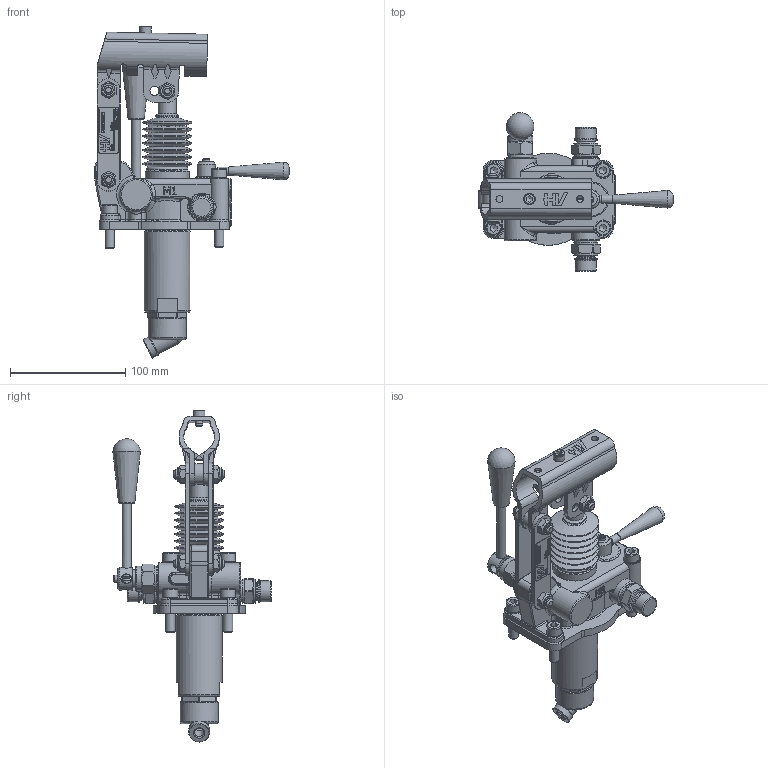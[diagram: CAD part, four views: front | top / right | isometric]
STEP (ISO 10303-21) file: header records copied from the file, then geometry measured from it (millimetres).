
FILE_DESCRIPTION((''),'2;1');
FILE_NAME('G:\HV_HYDRAULIC\AZIENDA_HV_HYDRAULIC\ARCHIVIO_DISEGNI\5_PRODOTTI_FINITI\1_POMPE_MANUALI\6057_PMD_45\6057.0047_PMD_45_cc-L-s_(HV)\6057.0047.stp','2024-03-04T10:01:56',('christian.scardovi'),(''),'Autodesk Inventor 2013','Autodesk Inventor 2013','');
FILE_SCHEMA(('AUTOMOTIVE_DESIGN { 1 0 10303 214 1 1 1 1 }'));
Length unit declared in the file: millimetre
Products named in the file (1): 6057.0047
Bounding box: 169 x 137.49 x 288.31 mm (x, y, z)
Surface area: 137892.5 mm2
Topology: 2 solids, 3 shells, 1541 faces, 3906 edges, 2477 vertices
Faces by surface type: plane 750, cylinder 329, bspline 184, cone 152, torus 112, sphere 14
Full cylindrical faces by diameter (mm): 4.917 x2, 5 x6, 6 x8, 6.5 x1, 7 x1, 8 x18, 9 x1, 9.2 x1, 10 x4, 10.376 x1, 11.05 x6, 12 x5, 13 x4, 13.2 x1, 14 x4, 14.95 x1, 15.9 x2, 16 x7, 16.6 x2, 18 x5, 19 x2, 20 x4, 21 x6, 21.6 x1, 21.8 x2, 22 x2, 23 x1, 24 x2, 26.5 x1, 27 x1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
Entity records: 48280 total; most frequent: CARTESIAN_POINT 12491, ORIENTED_EDGE 7086, DIRECTION 6585, EDGE_CURVE 3543, VERTEX_POINT 2380, AXIS2_PLACEMENT_3D 2347, EDGE_LOOP 1955, VECTOR 1891
